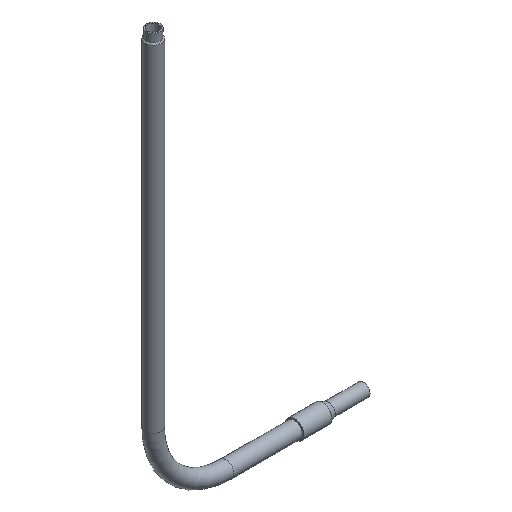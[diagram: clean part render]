
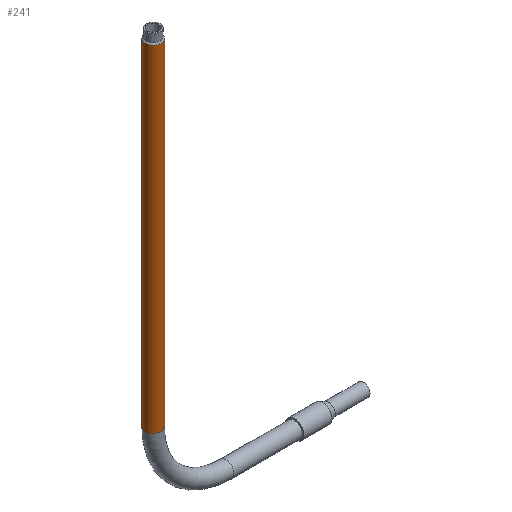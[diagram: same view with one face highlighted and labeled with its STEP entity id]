
A CAD part, isometric view. The second image highlights one B-rep face of the part: STEP entity #241.
In plain terms, the highlighted cylindrical face has radius 15.4 mm (diameter 30.8 mm), a full revolution.
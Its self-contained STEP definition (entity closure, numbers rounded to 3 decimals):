
#63=ORIENTED_EDGE('',*,*,#93,.T.);
#64=ORIENTED_EDGE('',*,*,#94,.T.);
#93=EDGE_CURVE('',#113,#113,#133,.T.);
#94=EDGE_CURVE('',#114,#114,#134,.F.);
#113=VERTEX_POINT('',#436);
#114=VERTEX_POINT('',#438);
#133=CIRCLE('',#294,15.4);
#134=CIRCLE('',#295,15.4);
#163=EDGE_LOOP('',(#63));
#164=EDGE_LOOP('',(#64));
#203=FACE_BOUND('',#163,.T.);
#204=FACE_BOUND('',#164,.T.);
#226=CYLINDRICAL_SURFACE('',#293,15.4);
#241=ADVANCED_FACE('',(#203,#204),#226,.T.);
#293=AXIS2_PLACEMENT_3D('',#434,#361,#362);
#294=AXIS2_PLACEMENT_3D('',#435,#363,#364);
#295=AXIS2_PLACEMENT_3D('',#437,#365,#366);
#361=DIRECTION('',(1.,0.,0.));
#362=DIRECTION('',(0.,0.,-1.));
#363=DIRECTION('',(-1.,0.,0.));
#364=DIRECTION('',(0.,0.,1.));
#365=DIRECTION('',(-1.,0.,0.));
#366=DIRECTION('',(0.,0.,-1.));
#434=CARTESIAN_POINT('',(155.25,0.,321.6));
#435=CARTESIAN_POINT('',(802.3,0.,321.6));
#436=CARTESIAN_POINT('',(802.3,0.,337.));
#437=CARTESIAN_POINT('',(155.25,0.,321.6));
#438=CARTESIAN_POINT('',(155.25,0.,306.2));
